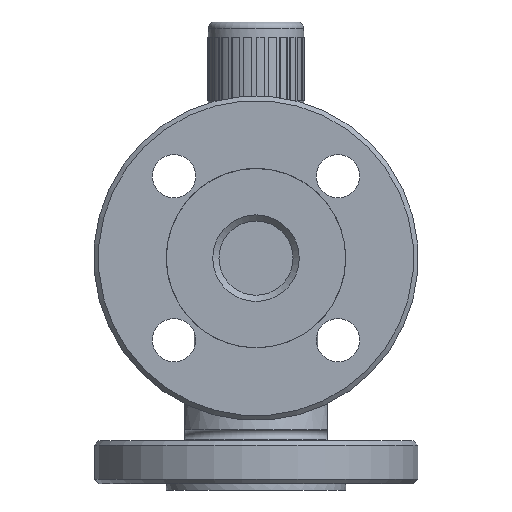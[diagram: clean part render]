
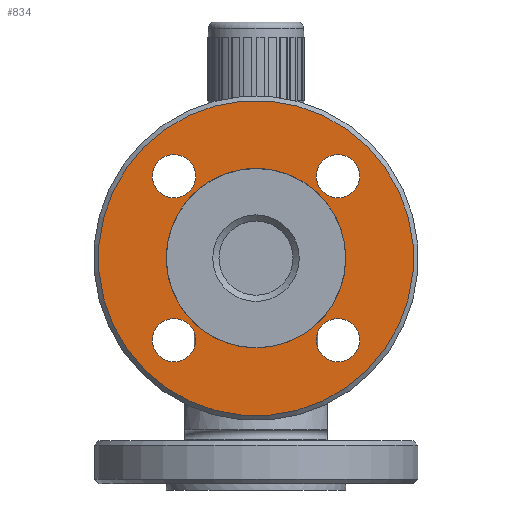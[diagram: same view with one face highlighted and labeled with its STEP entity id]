
A CAD part, left-side view. The second image highlights one B-rep face of the part: STEP entity #834.
In plain terms, the highlighted planar face has unit normal (-1, 0, 0).
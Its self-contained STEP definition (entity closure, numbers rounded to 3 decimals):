
#365=PLANE('',#5172);
#568=FACE_BOUND('',#1478,.T.);
#569=FACE_BOUND('',#1479,.T.);
#570=FACE_BOUND('',#1480,.T.);
#571=FACE_BOUND('',#1481,.T.);
#572=FACE_BOUND('',#1482,.T.);
#573=FACE_BOUND('',#1483,.T.);
#834=ADVANCED_FACE('',(#568,#569,#570,#571,#572,#573),#365,.T.);
#1478=EDGE_LOOP('',(#2343));
#1479=EDGE_LOOP('',(#2344));
#1480=EDGE_LOOP('',(#2345));
#1481=EDGE_LOOP('',(#2346));
#1482=EDGE_LOOP('',(#2347));
#1483=EDGE_LOOP('',(#2348));
#1954=CIRCLE('',#5166,51.);
#1955=CIRCLE('',#5167,29.);
#1956=CIRCLE('',#5168,7.);
#1957=CIRCLE('',#5169,7.);
#1958=CIRCLE('',#5170,7.);
#1959=CIRCLE('',#5171,7.);
#2343=ORIENTED_EDGE('',*,*,#4035,.T.);
#2344=ORIENTED_EDGE('',*,*,#4036,.F.);
#2345=ORIENTED_EDGE('',*,*,#4037,.T.);
#2346=ORIENTED_EDGE('',*,*,#4038,.T.);
#2347=ORIENTED_EDGE('',*,*,#4039,.T.);
#2348=ORIENTED_EDGE('',*,*,#4040,.T.);
#3559=VERTEX_POINT('',#7417);
#3560=VERTEX_POINT('',#7419);
#3561=VERTEX_POINT('',#7421);
#3562=VERTEX_POINT('',#7423);
#3563=VERTEX_POINT('',#7425);
#3564=VERTEX_POINT('',#7427);
#4035=EDGE_CURVE('',#3559,#3559,#1954,.T.);
#4036=EDGE_CURVE('',#3560,#3560,#1955,.T.);
#4037=EDGE_CURVE('',#3561,#3561,#1956,.T.);
#4038=EDGE_CURVE('',#3562,#3562,#1957,.T.);
#4039=EDGE_CURVE('',#3563,#3563,#1958,.T.);
#4040=EDGE_CURVE('',#3564,#3564,#1959,.T.);
#5166=AXIS2_PLACEMENT_3D('',#7416,#5883,#5884);
#5167=AXIS2_PLACEMENT_3D('',#7418,#5885,#5886);
#5168=AXIS2_PLACEMENT_3D('',#7420,#5887,#5888);
#5169=AXIS2_PLACEMENT_3D('',#7422,#5889,#5890);
#5170=AXIS2_PLACEMENT_3D('',#7424,#5891,#5892);
#5171=AXIS2_PLACEMENT_3D('',#7426,#5893,#5894);
#5172=AXIS2_PLACEMENT_3D('',#7428,#5895,#5896);
#5883=DIRECTION('',(-1.,0.,0.));
#5884=DIRECTION('',(0.,0.707,0.707));
#5885=DIRECTION('',(-1.,0.,0.));
#5886=DIRECTION('',(0.,0.707,0.707));
#5887=DIRECTION('',(1.,0.,0.));
#5888=DIRECTION('',(0.,-0.707,0.707));
#5889=DIRECTION('',(1.,0.,0.));
#5890=DIRECTION('',(0.,0.707,0.707));
#5891=DIRECTION('',(1.,0.,0.));
#5892=DIRECTION('',(0.,0.707,-0.707));
#5893=DIRECTION('',(1.,0.,0.));
#5894=DIRECTION('',(0.,-0.707,-0.707));
#5895=DIRECTION('',(-1.,0.,0.));
#5896=DIRECTION('',(0.,0.707,0.707));
#7416=CARTESIAN_POINT('',(27.,0.,100.));
#7417=CARTESIAN_POINT('',(27.,36.062,136.062));
#7418=CARTESIAN_POINT('',(27.,0.,100.));
#7419=CARTESIAN_POINT('',(27.,20.506,120.506));
#7420=CARTESIAN_POINT('',(27.,26.517,126.517));
#7421=CARTESIAN_POINT('',(27.,21.567,131.466));
#7422=CARTESIAN_POINT('',(27.,26.517,73.483));
#7423=CARTESIAN_POINT('',(27.,31.466,78.433));
#7424=CARTESIAN_POINT('',(27.,-26.517,73.483));
#7425=CARTESIAN_POINT('',(27.,-21.567,68.534));
#7426=CARTESIAN_POINT('',(27.,-26.517,126.517));
#7427=CARTESIAN_POINT('',(27.,-31.466,121.567));
#7428=CARTESIAN_POINT('',(27.,0.,100.));
